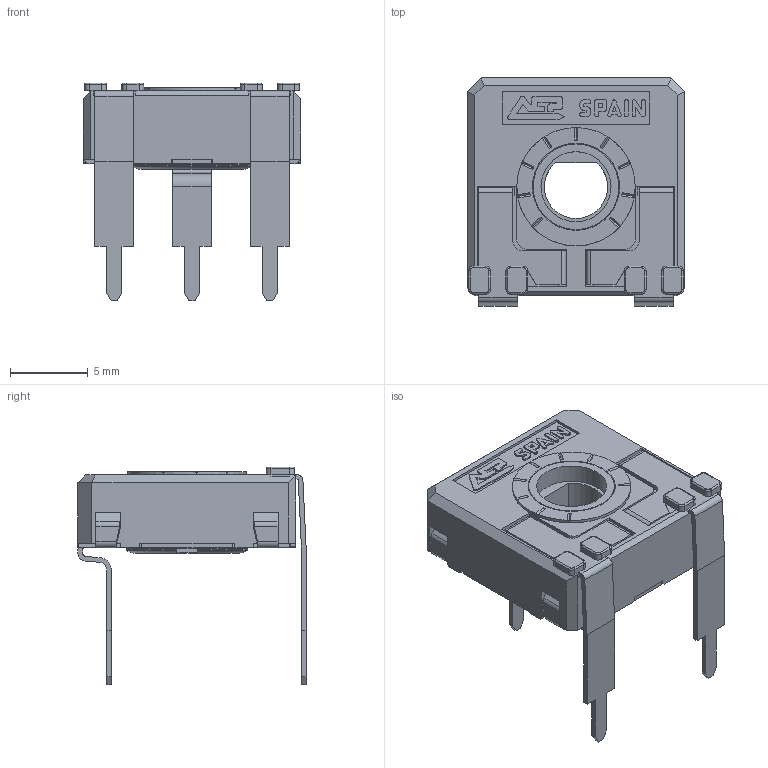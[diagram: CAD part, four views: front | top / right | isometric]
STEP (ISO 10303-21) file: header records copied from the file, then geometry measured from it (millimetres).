
FILE_DESCRIPTION(/* description */ (''),/* implementation_level */ '2;1');
FILE_NAME(/* name */ '\\SERVERACP\intercambio\Ignacio Santa Cecilia\Nueva WEB 2025\RS14\RS14DVL12,5.stp',/* time_stamp */ '2025-12-10T10:16:58+01:00',/* author */ ('CEM'),/* organization */ (''),/* preprocessor_version */ 'ST-DEVELOPER v16.13',/* originating_system */ 'Autodesk Inventor 2018',/* authorisation */ '');
FILE_SCHEMA (('AUTOMOTIVE_DESIGN { 1 0 10303 214 3 1 1 }'));
Length unit declared in the file: millimetre
Products named in the file (1): CARCASA CA14 PGA
Bounding box: 14 x 14.65 x 14 mm (x, y, z)
Volume: 531.3 mm3; surface area: 1531 mm2
Topology: 1 solids, 1 shells, 677 faces, 1908 edges, 1228 vertices
Faces by surface type: plane 498, cylinder 142, torus 23, bspline 8, cone 6
Full cylindrical faces by diameter (mm): 4.5 x1, 5.5 x1, 5.6 x1, 5.752 x1, 6.8 x1, 7.6 x1
Entity records: 21952 total; most frequent: CARTESIAN_POINT 4008, ORIENTED_EDGE 3788, DIRECTION 3576, EDGE_CURVE 1894, LINE 1496, VECTOR 1496, VERTEX_POINT 1224, AXIS2_PLACEMENT_3D 1040
